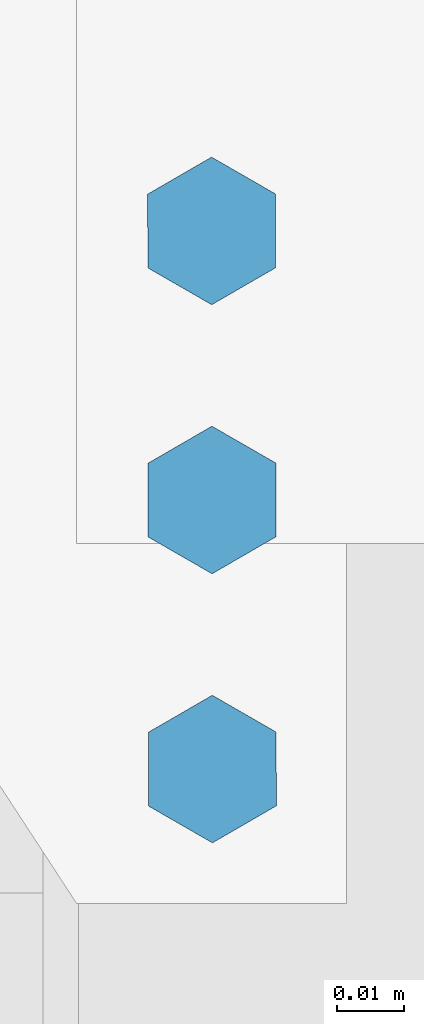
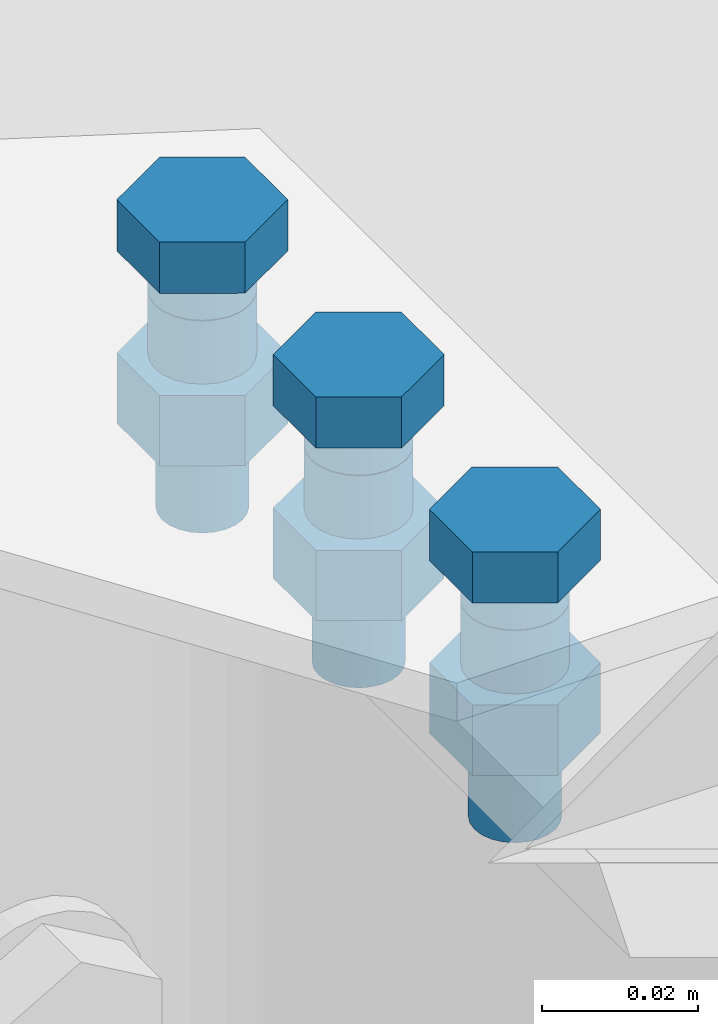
# One storey, part 21 of 21: 3 mechanical fasteners.
"""IFC2X3 building model written with IfcOpenShell, lengths in millimetres."""

from ifc_helpers import new_model, si_unit, frame, origin_with_axes, place, context, project, spatial, faceted_brep, element, save


model = new_model("IFC2X3")

# Units and contexts
model_context_1 = context("Model", 3, precision=1e-05, world=origin_with_axes(), identifier="Body")
model_context_2 = context("Model", 3, precision=1e-05, world=origin_with_axes())
ifc_project = project(units=[si_unit("LENGTHUNIT", "METRE", prefix="MILLI"), si_unit("AREAUNIT", "SQUARE_METRE"), si_unit("VOLUMEUNIT", "CUBIC_METRE"), si_unit("MASSUNIT", "GRAM", prefix="KILO"), si_unit("TIMEUNIT", "SECOND"), si_unit("PLANEANGLEUNIT", "RADIAN"), si_unit("SOLIDANGLEUNIT", "STERADIAN"), si_unit("THERMODYNAMICTEMPERATUREUNIT", "DEGREE_CELSIUS"), si_unit("LUMINOUSINTENSITYUNIT", "LUMEN")], contexts=[model_context_1, model_context_2])

# Site, building, storey
site_placement = place(None, origin_with_axes())
site = spatial("IfcSite", under=ifc_project, at=site_placement, Name="Undefined", CompositionType="ELEMENT")
building_placement = place(site_placement, origin_with_axes())
building = spatial("IfcBuilding", under=site, at=building_placement, Name="Undefined", CompositionType="ELEMENT")
storey_placement = place(building_placement, origin_with_axes())
storey = spatial("IfcBuildingStorey", under=building, at=storey_placement, Name="Undefined", CompositionType="ELEMENT")

# Mechanical fasteners
mechanical_fastener_1_placement = place(storey_placement, frame((-74.939744, 113.43889, 5513.9994), z_axis=(-0.99999919, -0.0012699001, 5.0022213e-14), x_axis=(-0.0012699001, 0.99999919, -1.0004443e-12)))
element("IfcMechanicalFastener", 1, at=mechanical_fastener_1_placement, inside=storey, Name="Bolt assembly", NominalDiameter=12.0, NominalLength=40.0, context=model_context_1, shape_type="Brep", body=[
    faceted_brep([(10.969655, -14.0, 0.0), (5.4848276, -14.0, 9.5), (-5.4848276, -14.0, 9.5), (-10.969655, -14.0, 0.0), (-5.4848276, -14.0, -9.5), (5.4848276, -14.0, -9.5), (5.4848276, -6.0, -9.5), (-5.4848276, -6.0, -9.5), (-10.969655, -6.0, 0.0), (-5.4848276, -6.0, 9.5), (5.4848276, -6.0, 9.5), (10.969655, -6.0, 0.0), (6.0, -6.0, 0.0), (5.795555, -6.0, 1.5529143), (5.1961524, -6.0, 3.0), (4.2426407, -6.0, 4.2426407), (3.0, -6.0, 5.1961524), (1.5529143, -6.0, 5.795555), (-6.2180159e-13, -6.0, 6.0), (-1.5529143, -6.0, 5.795555), (-3.0, -6.0, 5.1961524), (-4.2426407, -6.0, 4.2426407), (-5.1961524, -6.0, 3.0), (-5.795555, -6.0, 1.5529143), (-6.0, -6.0, -1.2436032e-12), (-5.795555, -6.0, -1.5529143), (-5.1961524, -6.0, -3.0), (-4.2426407, -6.0, -4.2426407), (-3.0, -6.0, -5.1961524), (-1.5529143, -6.0, -5.795555), (1.8587434e-12, -6.0, -6.0), (1.5529143, -6.0, -5.795555), (3.0, -6.0, -5.1961524), (4.2426407, -6.0, -4.2426407), (5.1961524, -6.0, -3.0), (5.795555, -6.0, -1.5529143), (5.795555, 34.0, -1.5529143), (5.1961524, 34.0, -3.0), (4.2426407, 34.0, -4.2426407), (3.0, 34.0, -5.1961524), (1.5529143, 34.0, -5.795555), (1.8587434e-12, 34.0, -6.0), (-1.5529143, 34.0, -5.795555), (-3.0, 34.0, -5.1961524), (-4.2426407, 34.0, -4.2426407), (-5.1961524, 34.0, -3.0), (-5.795555, 34.0, -1.5529143), (-6.0, 34.0, -1.2436032e-12), (-5.795555, 34.0, 1.5529143), (-5.1961524, 34.0, 3.0), (-4.2426407, 34.0, 4.2426407), (-3.0, 34.0, 5.1961524), (-1.5529143, 34.0, 5.795555), (-6.2180159e-13, 34.0, 6.0), (1.5529143, 34.0, 5.795555), (3.0, 34.0, 5.1961524), (4.2426407, 34.0, 4.2426407), (5.1961524, 34.0, 3.0), (5.795555, 34.0, 1.5529143), (6.0, 34.0, 0.0), (10.969655, 10.0, 0.0), (5.4848276, 10.0, 9.5), (-5.4848276, 10.0, 9.5), (-10.969655, 10.0, 0.0), (-5.4848276, 10.0, -9.5), (5.4848276, 10.0, -9.5), (5.4848276, 21.0, -9.5), (-5.4848276, 21.0, -9.5), (-10.969655, 21.0, 0.0), (-5.4848276, 21.0, 9.5), (5.4848276, 21.0, 9.5), (10.969655, 21.0, 0.0)], [[[0, 1, 2, 3, 4, 5]], [[6, 7, 8, 9, 10, 11]], [[0, 11, 10, 1]], [[1, 10, 9, 2]], [[2, 9, 8, 3]], [[3, 8, 7, 4]], [[4, 7, 6, 5]], [[5, 6, 11, 0]], [[12, 13, 14, 15, 16, 17, 18, 19, 20, 21, 22, 23, 24, 25, 26, 27, 28, 29, 30, 31, 32, 33, 34, 35]], [[36, 37, 38, 39, 40, 41, 42, 43, 44, 45, 46, 47, 48, 49, 50, 51, 52, 53, 54, 55, 56, 57, 58, 59]], [[12, 59, 58, 13]], [[13, 58, 57, 14]], [[14, 57, 56, 15]], [[15, 56, 55, 16]], [[16, 55, 54, 17]], [[17, 54, 53, 18]], [[18, 53, 52, 19]], [[19, 52, 51, 20]], [[20, 51, 50, 21]], [[21, 50, 49, 22]], [[22, 49, 48, 23]], [[23, 48, 47, 24]], [[24, 47, 46, 25]], [[25, 46, 45, 26]], [[26, 45, 44, 27]], [[27, 44, 43, 28]], [[28, 43, 42, 29]], [[29, 42, 41, 30]], [[30, 41, 40, 31]], [[31, 40, 39, 32]], [[32, 39, 38, 33]], [[33, 38, 37, 34]], [[34, 37, 36, 35]], [[35, 36, 59, 12]], [[60, 61, 62, 63, 64, 65]], [[66, 67, 68, 69, 70, 71]], [[60, 71, 70, 61]], [[61, 70, 69, 62]], [[62, 69, 68, 63]], [[63, 68, 67, 64]], [[64, 67, 66, 65]], [[65, 66, 71, 60]]]),
    faceted_brep([(7.0, -6.1, 0.0), (6.7614808, -6.1, 1.8117333), (6.0621778, -6.1, 3.5), (4.9497475, -6.1, 4.9497475), (3.5, -6.1, 6.0621778), (1.8117333, -6.1, 6.7614808), (-7.2543519e-13, -6.1, 7.0), (-1.8117333, -6.1, 6.7614808), (-3.5, -6.1, 6.0621778), (-4.9497475, -6.1, 4.9497475), (-6.0621778, -6.1, 3.5), (-6.7614808, -6.1, 1.8117333), (-7.0, -6.1, -1.4508704e-12), (-6.7614808, -6.1, -1.8117333), (-6.0621778, -6.1, -3.5), (-4.9497475, -6.1, -4.9497475), (-3.5, -6.1, -6.0621778), (-1.8117333, -6.1, -6.7614808), (2.168534e-12, -6.1, -7.0), (1.8117333, -6.1, -6.7614808), (3.5, -6.1, -6.0621778), (4.9497475, -6.1, -4.9497475), (6.0621778, -6.1, -3.5), (6.7614808, -6.1, -1.8117333), (6.7614808, 1.2789769e-13, -1.8117333), (6.0621778, 1.2789769e-13, -3.5), (4.9497475, 1.2789769e-13, -4.9497475), (3.5, 1.2789769e-13, -6.0621778), (1.8117333, 1.2789769e-13, -6.7614808), (2.168534e-12, 1.2789769e-13, -7.0), (-1.8117333, 1.2789769e-13, -6.7614808), (-3.5, 1.2789769e-13, -6.0621778), (-4.9497475, 1.2789769e-13, -4.9497475), (-6.0621778, 1.2789769e-13, -3.5), (-6.7614808, 1.2789769e-13, -1.8117333), (-7.0, 1.2789769e-13, -1.4508704e-12), (-6.7614808, 1.2789769e-13, 1.8117333), (-6.0621778, 1.2789769e-13, 3.5), (-4.9497475, 1.2789769e-13, 4.9497475), (-3.5, 1.2789769e-13, 6.0621778), (-1.8117333, 1.2789769e-13, 6.7614808), (-7.2543519e-13, 1.2789769e-13, 7.0), (1.8117333, 1.2789769e-13, 6.7614808), (3.5, 1.2789769e-13, 6.0621778), (4.9497475, 1.2789769e-13, 4.9497475), (6.0621778, 1.2789769e-13, 3.5), (6.7614808, 1.2789769e-13, 1.8117333), (7.0, 1.2789769e-13, 0.0), (7.0, 0.1, 0.0), (6.7614808, 0.1, 1.8117333), (6.0621778, 0.1, 3.5), (4.9497475, 0.1, 4.9497475), (3.5, 0.1, 6.0621778), (1.8117333, 0.1, 6.7614808), (-7.2543519e-13, 0.1, 7.0), (-1.8117333, 0.1, 6.7614808), (-3.5, 0.1, 6.0621778), (-4.9497475, 0.1, 4.9497475), (-6.0621778, 0.1, 3.5), (-6.7614808, 0.1, 1.8117333), (-7.0, 0.1, -1.4508704e-12), (-6.7614808, 0.1, -1.8117333), (-6.0621778, 0.1, -3.5), (-4.9497475, 0.1, -4.9497475), (-3.5, 0.1, -6.0621778), (-1.8117333, 0.1, -6.7614808), (2.168534e-12, 0.1, -7.0), (1.8117333, 0.1, -6.7614808), (3.5, 0.1, -6.0621778), (4.9497475, 0.1, -4.9497475), (6.0621778, 0.1, -3.5), (6.7614808, 0.1, -1.8117333), (6.7614808, 10.1, -1.8117333), (6.0621778, 10.1, -3.5), (4.9497475, 10.1, -4.9497475), (3.5, 10.1, -6.0621778), (1.8117333, 10.1, -6.7614808), (2.168534e-12, 10.1, -7.0), (-1.8117333, 10.1, -6.7614808), (-3.5, 10.1, -6.0621778), (-4.9497475, 10.1, -4.9497475), (-6.0621778, 10.1, -3.5), (-6.7614808, 10.1, -1.8117333), (-7.0, 10.1, -1.4508704e-12), (-6.7614808, 10.1, 1.8117333), (-6.0621778, 10.1, 3.5), (-4.9497475, 10.1, 4.9497475), (-3.5, 10.1, 6.0621778), (-1.8117333, 10.1, 6.7614808), (-7.2543519e-13, 10.1, 7.0), (1.8117333, 10.1, 6.7614808), (3.5, 10.1, 6.0621778), (4.9497475, 10.1, 4.9497475), (6.0621778, 10.1, 3.5), (6.7614808, 10.1, 1.8117333), (7.0, 10.1, 0.0)], [[[0, 1, 2, 3, 4, 5, 6, 7, 8, 9, 10, 11, 12, 13, 14, 15, 16, 17, 18, 19, 20, 21, 22, 23]], [[24, 25, 26, 27, 28, 29, 30, 31, 32, 33, 34, 35, 36, 37, 38, 39, 40, 41, 42, 43, 44, 45, 46, 47]], [[0, 47, 46, 1]], [[1, 46, 45, 2]], [[2, 45, 44, 3]], [[3, 44, 43, 4]], [[4, 43, 42, 5]], [[5, 42, 41, 6]], [[6, 41, 40, 7]], [[7, 40, 39, 8]], [[8, 39, 38, 9]], [[9, 38, 37, 10]], [[10, 37, 36, 11]], [[11, 36, 35, 12]], [[12, 35, 34, 13]], [[13, 34, 33, 14]], [[14, 33, 32, 15]], [[15, 32, 31, 16]], [[16, 31, 30, 17]], [[17, 30, 29, 18]], [[18, 29, 28, 19]], [[19, 28, 27, 20]], [[20, 27, 26, 21]], [[21, 26, 25, 22]], [[22, 25, 24, 23]], [[23, 24, 47, 0]], [[48, 49, 50, 51, 52, 53, 54, 55, 56, 57, 58, 59, 60, 61, 62, 63, 64, 65, 66, 67, 68, 69, 70, 71]], [[72, 73, 74, 75, 76, 77, 78, 79, 80, 81, 82, 83, 84, 85, 86, 87, 88, 89, 90, 91, 92, 93, 94, 95]], [[48, 95, 94, 49]], [[49, 94, 93, 50]], [[50, 93, 92, 51]], [[51, 92, 91, 52]], [[52, 91, 90, 53]], [[53, 90, 89, 54]], [[54, 89, 88, 55]], [[55, 88, 87, 56]], [[56, 87, 86, 57]], [[57, 86, 85, 58]], [[58, 85, 84, 59]], [[59, 84, 83, 60]], [[60, 83, 82, 61]], [[61, 82, 81, 62]], [[62, 81, 80, 63]], [[63, 80, 79, 64]], [[64, 79, 78, 65]], [[65, 78, 77, 66]], [[66, 77, 76, 67]], [[67, 76, 75, 68]], [[68, 75, 74, 69]], [[69, 74, 73, 70]], [[70, 73, 72, 71]], [[71, 72, 95, 48]]]),
])
mechanical_fastener_2_placement = place(storey_placement, frame((-74.888948, 73.438919, 5513.9994), z_axis=(-0.99999919, -0.0012699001, 5.0022213e-14), x_axis=(-0.0012699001, 0.99999919, -1.0004443e-12)))
element("IfcMechanicalFastener", 2, at=mechanical_fastener_2_placement, inside=storey, Name="Bolt assembly", NominalDiameter=12.0, NominalLength=40.0, context=model_context_1, shape_type="Brep", body=[
    faceted_brep([(10.969655, -14.0, 0.0), (5.4848276, -14.0, 9.5), (-5.4848276, -14.0, 9.5), (-10.969655, -14.0, 0.0), (-5.4848276, -14.0, -9.5), (5.4848276, -14.0, -9.5), (5.4848276, -6.0, -9.5), (-5.4848276, -6.0, -9.5), (-10.969655, -6.0, 0.0), (-5.4848276, -6.0, 9.5), (5.4848276, -6.0, 9.5), (10.969655, -6.0, 0.0), (6.0, -6.0, 0.0), (5.795555, -6.0, 1.5529143), (5.1961524, -6.0, 3.0), (4.2426407, -6.0, 4.2426407), (3.0, -6.0, 5.1961524), (1.5529143, -6.0, 5.795555), (-6.2180159e-13, -6.0, 6.0), (-1.5529143, -6.0, 5.795555), (-3.0, -6.0, 5.1961524), (-4.2426407, -6.0, 4.2426407), (-5.1961524, -6.0, 3.0), (-5.795555, -6.0, 1.5529143), (-6.0, -6.0, -1.2436032e-12), (-5.795555, -6.0, -1.5529143), (-5.1961524, -6.0, -3.0), (-4.2426407, -6.0, -4.2426407), (-3.0, -6.0, -5.1961524), (-1.5529143, -6.0, -5.795555), (1.8587434e-12, -6.0, -6.0), (1.5529143, -6.0, -5.795555), (3.0, -6.0, -5.1961524), (4.2426407, -6.0, -4.2426407), (5.1961524, -6.0, -3.0), (5.795555, -6.0, -1.5529143), (5.795555, 34.0, -1.5529143), (5.1961524, 34.0, -3.0), (4.2426407, 34.0, -4.2426407), (3.0, 34.0, -5.1961524), (1.5529143, 34.0, -5.795555), (1.8587434e-12, 34.0, -6.0), (-1.5529143, 34.0, -5.795555), (-3.0, 34.0, -5.1961524), (-4.2426407, 34.0, -4.2426407), (-5.1961524, 34.0, -3.0), (-5.795555, 34.0, -1.5529143), (-6.0, 34.0, -1.2436032e-12), (-5.795555, 34.0, 1.5529143), (-5.1961524, 34.0, 3.0), (-4.2426407, 34.0, 4.2426407), (-3.0, 34.0, 5.1961524), (-1.5529143, 34.0, 5.795555), (-6.2180159e-13, 34.0, 6.0), (1.5529143, 34.0, 5.795555), (3.0, 34.0, 5.1961524), (4.2426407, 34.0, 4.2426407), (5.1961524, 34.0, 3.0), (5.795555, 34.0, 1.5529143), (6.0, 34.0, 0.0), (10.969655, 10.0, 0.0), (5.4848276, 10.0, 9.5), (-5.4848276, 10.0, 9.5), (-10.969655, 10.0, 0.0), (-5.4848276, 10.0, -9.5), (5.4848276, 10.0, -9.5), (5.4848276, 21.0, -9.5), (-5.4848276, 21.0, -9.5), (-10.969655, 21.0, 0.0), (-5.4848276, 21.0, 9.5), (5.4848276, 21.0, 9.5), (10.969655, 21.0, 0.0)], [[[0, 1, 2, 3, 4, 5]], [[6, 7, 8, 9, 10, 11]], [[0, 11, 10, 1]], [[1, 10, 9, 2]], [[2, 9, 8, 3]], [[3, 8, 7, 4]], [[4, 7, 6, 5]], [[5, 6, 11, 0]], [[12, 13, 14, 15, 16, 17, 18, 19, 20, 21, 22, 23, 24, 25, 26, 27, 28, 29, 30, 31, 32, 33, 34, 35]], [[36, 37, 38, 39, 40, 41, 42, 43, 44, 45, 46, 47, 48, 49, 50, 51, 52, 53, 54, 55, 56, 57, 58, 59]], [[12, 59, 58, 13]], [[13, 58, 57, 14]], [[14, 57, 56, 15]], [[15, 56, 55, 16]], [[16, 55, 54, 17]], [[17, 54, 53, 18]], [[18, 53, 52, 19]], [[19, 52, 51, 20]], [[20, 51, 50, 21]], [[21, 50, 49, 22]], [[22, 49, 48, 23]], [[23, 48, 47, 24]], [[24, 47, 46, 25]], [[25, 46, 45, 26]], [[26, 45, 44, 27]], [[27, 44, 43, 28]], [[28, 43, 42, 29]], [[29, 42, 41, 30]], [[30, 41, 40, 31]], [[31, 40, 39, 32]], [[32, 39, 38, 33]], [[33, 38, 37, 34]], [[34, 37, 36, 35]], [[35, 36, 59, 12]], [[60, 61, 62, 63, 64, 65]], [[66, 67, 68, 69, 70, 71]], [[60, 71, 70, 61]], [[61, 70, 69, 62]], [[62, 69, 68, 63]], [[63, 68, 67, 64]], [[64, 67, 66, 65]], [[65, 66, 71, 60]]]),
    faceted_brep([(7.0, 0.1, 0.0), (6.7614808, 0.1, 1.8117333), (6.0621778, 0.1, 3.5), (4.9497475, 0.1, 4.9497475), (3.5, 0.1, 6.0621778), (1.8117333, 0.1, 6.7614808), (-7.2543519e-13, 0.1, 7.0), (-1.8117333, 0.1, 6.7614808), (-3.5, 0.1, 6.0621778), (-4.9497475, 0.1, 4.9497475), (-6.0621778, 0.1, 3.5), (-6.7614808, 0.1, 1.8117333), (-7.0, 0.1, -1.4508704e-12), (-6.7614808, 0.1, -1.8117333), (-6.0621778, 0.1, -3.5), (-4.9497475, 0.1, -4.9497475), (-3.5, 0.1, -6.0621778), (-1.8117333, 0.1, -6.7614808), (2.168534e-12, 0.1, -7.0), (1.8117333, 0.1, -6.7614808), (3.5, 0.1, -6.0621778), (4.9497475, 0.1, -4.9497475), (6.0621778, 0.1, -3.5), (6.7614808, 0.1, -1.8117333), (6.7614808, 10.1, -1.8117333), (6.0621778, 10.1, -3.5), (4.9497475, 10.1, -4.9497475), (3.5, 10.1, -6.0621778), (1.8117333, 10.1, -6.7614808), (2.168534e-12, 10.1, -7.0), (-1.8117333, 10.1, -6.7614808), (-3.5, 10.1, -6.0621778), (-4.9497475, 10.1, -4.9497475), (-6.0621778, 10.1, -3.5), (-6.7614808, 10.1, -1.8117333), (-7.0, 10.1, -1.4508704e-12), (-6.7614808, 10.1, 1.8117333), (-6.0621778, 10.1, 3.5), (-4.9497475, 10.1, 4.9497475), (-3.5, 10.1, 6.0621778), (-1.8117333, 10.1, 6.7614808), (-7.2543519e-13, 10.1, 7.0), (1.8117333, 10.1, 6.7614808), (3.5, 10.1, 6.0621778), (4.9497475, 10.1, 4.9497475), (6.0621778, 10.1, 3.5), (6.7614808, 10.1, 1.8117333), (7.0, 10.1, 0.0), (7.0, -6.1, 0.0), (6.7614808, -6.1, 1.8117333), (6.0621778, -6.1, 3.5), (4.9497475, -6.1, 4.9497475), (3.5, -6.1, 6.0621778), (1.8117333, -6.1, 6.7614808), (-7.2543519e-13, -6.1, 7.0), (-1.8117333, -6.1, 6.7614808), (-3.5, -6.1, 6.0621778), (-4.9497475, -6.1, 4.9497475), (-6.0621778, -6.1, 3.5), (-6.7614808, -6.1, 1.8117333), (-7.0, -6.1, -1.4508704e-12), (-6.7614808, -6.1, -1.8117333), (-6.0621778, -6.1, -3.5), (-4.9497475, -6.1, -4.9497475), (-3.5, -6.1, -6.0621778), (-1.8117333, -6.1, -6.7614808), (2.168534e-12, -6.1, -7.0), (1.8117333, -6.1, -6.7614808), (3.5, -6.1, -6.0621778), (4.9497475, -6.1, -4.9497475), (6.0621778, -6.1, -3.5), (6.7614808, -6.1, -1.8117333), (6.7614808, 1.2789769e-13, -1.8117333), (6.0621778, 1.2789769e-13, -3.5), (4.9497475, 1.2789769e-13, -4.9497475), (3.5, 1.2789769e-13, -6.0621778), (1.8117333, 1.2789769e-13, -6.7614808), (2.168534e-12, 1.2789769e-13, -7.0), (-1.8117333, 1.2789769e-13, -6.7614808), (-3.5, 1.2789769e-13, -6.0621778), (-4.9497475, 1.2789769e-13, -4.9497475), (-6.0621778, 1.2789769e-13, -3.5), (-6.7614808, 1.2789769e-13, -1.8117333), (-7.0, 1.2789769e-13, -1.4508704e-12), (-6.7614808, 1.2789769e-13, 1.8117333), (-6.0621778, 1.2789769e-13, 3.5), (-4.9497475, 1.2789769e-13, 4.9497475), (-3.5, 1.2789769e-13, 6.0621778), (-1.8117333, 1.2789769e-13, 6.7614808), (-7.2543519e-13, 1.2789769e-13, 7.0), (1.8117333, 1.2789769e-13, 6.7614808), (3.5, 1.2789769e-13, 6.0621778), (4.9497475, 1.2789769e-13, 4.9497475), (6.0621778, 1.2789769e-13, 3.5), (6.7614808, 1.2789769e-13, 1.8117333), (7.0, 1.2789769e-13, 0.0)], [[[0, 1, 2, 3, 4, 5, 6, 7, 8, 9, 10, 11, 12, 13, 14, 15, 16, 17, 18, 19, 20, 21, 22, 23]], [[24, 25, 26, 27, 28, 29, 30, 31, 32, 33, 34, 35, 36, 37, 38, 39, 40, 41, 42, 43, 44, 45, 46, 47]], [[0, 47, 46, 1]], [[1, 46, 45, 2]], [[2, 45, 44, 3]], [[3, 44, 43, 4]], [[4, 43, 42, 5]], [[5, 42, 41, 6]], [[6, 41, 40, 7]], [[7, 40, 39, 8]], [[8, 39, 38, 9]], [[9, 38, 37, 10]], [[10, 37, 36, 11]], [[11, 36, 35, 12]], [[12, 35, 34, 13]], [[13, 34, 33, 14]], [[14, 33, 32, 15]], [[15, 32, 31, 16]], [[16, 31, 30, 17]], [[17, 30, 29, 18]], [[18, 29, 28, 19]], [[19, 28, 27, 20]], [[20, 27, 26, 21]], [[21, 26, 25, 22]], [[22, 25, 24, 23]], [[23, 24, 47, 0]], [[48, 49, 50, 51, 52, 53, 54, 55, 56, 57, 58, 59, 60, 61, 62, 63, 64, 65, 66, 67, 68, 69, 70, 71]], [[72, 73, 74, 75, 76, 77, 78, 79, 80, 81, 82, 83, 84, 85, 86, 87, 88, 89, 90, 91, 92, 93, 94, 95]], [[48, 95, 94, 49]], [[49, 94, 93, 50]], [[50, 93, 92, 51]], [[51, 92, 91, 52]], [[52, 91, 90, 53]], [[53, 90, 89, 54]], [[54, 89, 88, 55]], [[55, 88, 87, 56]], [[56, 87, 86, 57]], [[57, 86, 85, 58]], [[58, 85, 84, 59]], [[59, 84, 83, 60]], [[60, 83, 82, 61]], [[61, 82, 81, 62]], [[62, 81, 80, 63]], [[63, 80, 79, 64]], [[64, 79, 78, 65]], [[65, 78, 77, 66]], [[66, 77, 76, 67]], [[67, 76, 75, 68]], [[68, 75, 74, 69]], [[69, 74, 73, 70]], [[70, 73, 72, 71]], [[71, 72, 95, 48]]]),
])
mechanical_fastener_3_placement = place(storey_placement, frame((-74.838152, 33.438951, 5513.9994), z_axis=(0.99999919, 0.0012699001, -5.0022213e-14), x_axis=(0.0012699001, -0.99999919, 1.0004443e-12)))
element("IfcMechanicalFastener", 3, at=mechanical_fastener_3_placement, inside=storey, Name="Bolt assembly", NominalDiameter=12.0, NominalLength=40.0, context=model_context_1, shape_type="Brep", body=[
    faceted_brep([(10.969655, -14.0, 0.0), (5.4848276, -14.0, 9.5), (-5.4848276, -14.0, 9.5), (-10.969655, -14.0, 0.0), (-5.4848276, -14.0, -9.5), (5.4848276, -14.0, -9.5), (5.4848276, -6.0, -9.5), (-5.4848276, -6.0, -9.5), (-10.969655, -6.0, 0.0), (-5.4848276, -6.0, 9.5), (5.4848276, -6.0, 9.5), (10.969655, -6.0, 0.0), (6.0, -6.0, 0.0), (5.795555, -6.0, 1.5529143), (5.1961524, -6.0, 3.0), (4.2426407, -6.0, 4.2426407), (3.0, -6.0, 5.1961524), (1.5529143, -6.0, 5.795555), (-6.2180159e-13, -6.0, 6.0), (-1.5529143, -6.0, 5.795555), (-3.0, -6.0, 5.1961524), (-4.2426407, -6.0, 4.2426407), (-5.1961524, -6.0, 3.0), (-5.795555, -6.0, 1.5529143), (-6.0, -6.0, -1.2436032e-12), (-5.795555, -6.0, -1.5529143), (-5.1961524, -6.0, -3.0), (-4.2426407, -6.0, -4.2426407), (-3.0, -6.0, -5.1961524), (-1.5529143, -6.0, -5.795555), (1.8587434e-12, -6.0, -6.0), (1.5529143, -6.0, -5.795555), (3.0, -6.0, -5.1961524), (4.2426407, -6.0, -4.2426407), (5.1961524, -6.0, -3.0), (5.795555, -6.0, -1.5529143), (5.795555, 34.0, -1.5529143), (5.1961524, 34.0, -3.0), (4.2426407, 34.0, -4.2426407), (3.0, 34.0, -5.1961524), (1.5529143, 34.0, -5.795555), (1.8587434e-12, 34.0, -6.0), (-1.5529143, 34.0, -5.795555), (-3.0, 34.0, -5.1961524), (-4.2426407, 34.0, -4.2426407), (-5.1961524, 34.0, -3.0), (-5.795555, 34.0, -1.5529143), (-6.0, 34.0, -1.2436032e-12), (-5.795555, 34.0, 1.5529143), (-5.1961524, 34.0, 3.0), (-4.2426407, 34.0, 4.2426407), (-3.0, 34.0, 5.1961524), (-1.5529143, 34.0, 5.795555), (-6.2180159e-13, 34.0, 6.0), (1.5529143, 34.0, 5.795555), (3.0, 34.0, 5.1961524), (4.2426407, 34.0, 4.2426407), (5.1961524, 34.0, 3.0), (5.795555, 34.0, 1.5529143), (6.0, 34.0, 0.0), (10.969655, 10.0, 0.0), (5.4848276, 10.0, 9.5), (-5.4848276, 10.0, 9.5), (-10.969655, 10.0, 0.0), (-5.4848276, 10.0, -9.5), (5.4848276, 10.0, -9.5), (5.4848276, 21.0, -9.5), (-5.4848276, 21.0, -9.5), (-10.969655, 21.0, 0.0), (-5.4848276, 21.0, 9.5), (5.4848276, 21.0, 9.5), (10.969655, 21.0, 0.0)], [[[0, 1, 2, 3, 4, 5]], [[6, 7, 8, 9, 10, 11]], [[0, 11, 10, 1]], [[1, 10, 9, 2]], [[2, 9, 8, 3]], [[3, 8, 7, 4]], [[4, 7, 6, 5]], [[5, 6, 11, 0]], [[12, 13, 14, 15, 16, 17, 18, 19, 20, 21, 22, 23, 24, 25, 26, 27, 28, 29, 30, 31, 32, 33, 34, 35]], [[36, 37, 38, 39, 40, 41, 42, 43, 44, 45, 46, 47, 48, 49, 50, 51, 52, 53, 54, 55, 56, 57, 58, 59]], [[12, 59, 58, 13]], [[13, 58, 57, 14]], [[14, 57, 56, 15]], [[15, 56, 55, 16]], [[16, 55, 54, 17]], [[17, 54, 53, 18]], [[18, 53, 52, 19]], [[19, 52, 51, 20]], [[20, 51, 50, 21]], [[21, 50, 49, 22]], [[22, 49, 48, 23]], [[23, 48, 47, 24]], [[24, 47, 46, 25]], [[25, 46, 45, 26]], [[26, 45, 44, 27]], [[27, 44, 43, 28]], [[28, 43, 42, 29]], [[29, 42, 41, 30]], [[30, 41, 40, 31]], [[31, 40, 39, 32]], [[32, 39, 38, 33]], [[33, 38, 37, 34]], [[34, 37, 36, 35]], [[35, 36, 59, 12]], [[60, 61, 62, 63, 64, 65]], [[66, 67, 68, 69, 70, 71]], [[60, 71, 70, 61]], [[61, 70, 69, 62]], [[62, 69, 68, 63]], [[63, 68, 67, 64]], [[64, 67, 66, 65]], [[65, 66, 71, 60]]]),
    faceted_brep([(7.0, 0.1, 0.0), (6.7614808, 0.1, 1.8117333), (6.0621778, 0.1, 3.5), (4.9497475, 0.1, 4.9497475), (3.5, 0.1, 6.0621778), (1.8117333, 0.1, 6.7614808), (-7.2543519e-13, 0.1, 7.0), (-1.8117333, 0.1, 6.7614808), (-3.5, 0.1, 6.0621778), (-4.9497475, 0.1, 4.9497475), (-6.0621778, 0.1, 3.5), (-6.7614808, 0.1, 1.8117333), (-7.0, 0.1, -1.4508704e-12), (-6.7614808, 0.1, -1.8117333), (-6.0621778, 0.1, -3.5), (-4.9497475, 0.1, -4.9497475), (-3.5, 0.1, -6.0621778), (-1.8117333, 0.1, -6.7614808), (2.168534e-12, 0.1, -7.0), (1.8117333, 0.1, -6.7614808), (3.5, 0.1, -6.0621778), (4.9497475, 0.1, -4.9497475), (6.0621778, 0.1, -3.5), (6.7614808, 0.1, -1.8117333), (6.7614808, 10.1, -1.8117333), (6.0621778, 10.1, -3.5), (4.9497475, 10.1, -4.9497475), (3.5, 10.1, -6.0621778), (1.8117333, 10.1, -6.7614808), (2.168534e-12, 10.1, -7.0), (-1.8117333, 10.1, -6.7614808), (-3.5, 10.1, -6.0621778), (-4.9497475, 10.1, -4.9497475), (-6.0621778, 10.1, -3.5), (-6.7614808, 10.1, -1.8117333), (-7.0, 10.1, -1.4508704e-12), (-6.7614808, 10.1, 1.8117333), (-6.0621778, 10.1, 3.5), (-4.9497475, 10.1, 4.9497475), (-3.5, 10.1, 6.0621778), (-1.8117333, 10.1, 6.7614808), (-7.2543519e-13, 10.1, 7.0), (1.8117333, 10.1, 6.7614808), (3.5, 10.1, 6.0621778), (4.9497475, 10.1, 4.9497475), (6.0621778, 10.1, 3.5), (6.7614808, 10.1, 1.8117333), (7.0, 10.1, 0.0), (7.0, -6.1, 0.0), (6.7614808, -6.1, 1.8117333), (6.0621778, -6.1, 3.5), (4.9497475, -6.1, 4.9497475), (3.5, -6.1, 6.0621778), (1.8117333, -6.1, 6.7614808), (-7.2543519e-13, -6.1, 7.0), (-1.8117333, -6.1, 6.7614808), (-3.5, -6.1, 6.0621778), (-4.9497475, -6.1, 4.9497475), (-6.0621778, -6.1, 3.5), (-6.7614808, -6.1, 1.8117333), (-7.0, -6.1, -1.4508704e-12), (-6.7614808, -6.1, -1.8117333), (-6.0621778, -6.1, -3.5), (-4.9497475, -6.1, -4.9497475), (-3.5, -6.1, -6.0621778), (-1.8117333, -6.1, -6.7614808), (2.168534e-12, -6.1, -7.0), (1.8117333, -6.1, -6.7614808), (3.5, -6.1, -6.0621778), (4.9497475, -6.1, -4.9497475), (6.0621778, -6.1, -3.5), (6.7614808, -6.1, -1.8117333), (6.7614808, 1.2789769e-13, -1.8117333), (6.0621778, 1.2789769e-13, -3.5), (4.9497475, 1.2789769e-13, -4.9497475), (3.5, 1.2789769e-13, -6.0621778), (1.8117333, 1.2789769e-13, -6.7614808), (2.168534e-12, 1.2789769e-13, -7.0), (-1.8117333, 1.2789769e-13, -6.7614808), (-3.5, 1.2789769e-13, -6.0621778), (-4.9497475, 1.2789769e-13, -4.9497475), (-6.0621778, 1.2789769e-13, -3.5), (-6.7614808, 1.2789769e-13, -1.8117333), (-7.0, 1.2789769e-13, -1.4508704e-12), (-6.7614808, 1.2789769e-13, 1.8117333), (-6.0621778, 1.2789769e-13, 3.5), (-4.9497475, 1.2789769e-13, 4.9497475), (-3.5, 1.2789769e-13, 6.0621778), (-1.8117333, 1.2789769e-13, 6.7614808), (-7.2543519e-13, 1.2789769e-13, 7.0), (1.8117333, 1.2789769e-13, 6.7614808), (3.5, 1.2789769e-13, 6.0621778), (4.9497475, 1.2789769e-13, 4.9497475), (6.0621778, 1.2789769e-13, 3.5), (6.7614808, 1.2789769e-13, 1.8117333), (7.0, 1.2789769e-13, 0.0)], [[[0, 1, 2, 3, 4, 5, 6, 7, 8, 9, 10, 11, 12, 13, 14, 15, 16, 17, 18, 19, 20, 21, 22, 23]], [[24, 25, 26, 27, 28, 29, 30, 31, 32, 33, 34, 35, 36, 37, 38, 39, 40, 41, 42, 43, 44, 45, 46, 47]], [[0, 47, 46, 1]], [[1, 46, 45, 2]], [[2, 45, 44, 3]], [[3, 44, 43, 4]], [[4, 43, 42, 5]], [[5, 42, 41, 6]], [[6, 41, 40, 7]], [[7, 40, 39, 8]], [[8, 39, 38, 9]], [[9, 38, 37, 10]], [[10, 37, 36, 11]], [[11, 36, 35, 12]], [[12, 35, 34, 13]], [[13, 34, 33, 14]], [[14, 33, 32, 15]], [[15, 32, 31, 16]], [[16, 31, 30, 17]], [[17, 30, 29, 18]], [[18, 29, 28, 19]], [[19, 28, 27, 20]], [[20, 27, 26, 21]], [[21, 26, 25, 22]], [[22, 25, 24, 23]], [[23, 24, 47, 0]], [[48, 49, 50, 51, 52, 53, 54, 55, 56, 57, 58, 59, 60, 61, 62, 63, 64, 65, 66, 67, 68, 69, 70, 71]], [[72, 73, 74, 75, 76, 77, 78, 79, 80, 81, 82, 83, 84, 85, 86, 87, 88, 89, 90, 91, 92, 93, 94, 95]], [[48, 95, 94, 49]], [[49, 94, 93, 50]], [[50, 93, 92, 51]], [[51, 92, 91, 52]], [[52, 91, 90, 53]], [[53, 90, 89, 54]], [[54, 89, 88, 55]], [[55, 88, 87, 56]], [[56, 87, 86, 57]], [[57, 86, 85, 58]], [[58, 85, 84, 59]], [[59, 84, 83, 60]], [[60, 83, 82, 61]], [[61, 82, 81, 62]], [[62, 81, 80, 63]], [[63, 80, 79, 64]], [[64, 79, 78, 65]], [[65, 78, 77, 66]], [[66, 77, 76, 67]], [[67, 76, 75, 68]], [[68, 75, 74, 69]], [[69, 74, 73, 70]], [[70, 73, 72, 71]], [[71, 72, 95, 48]]]),
])

save(model, "model.ifc")
